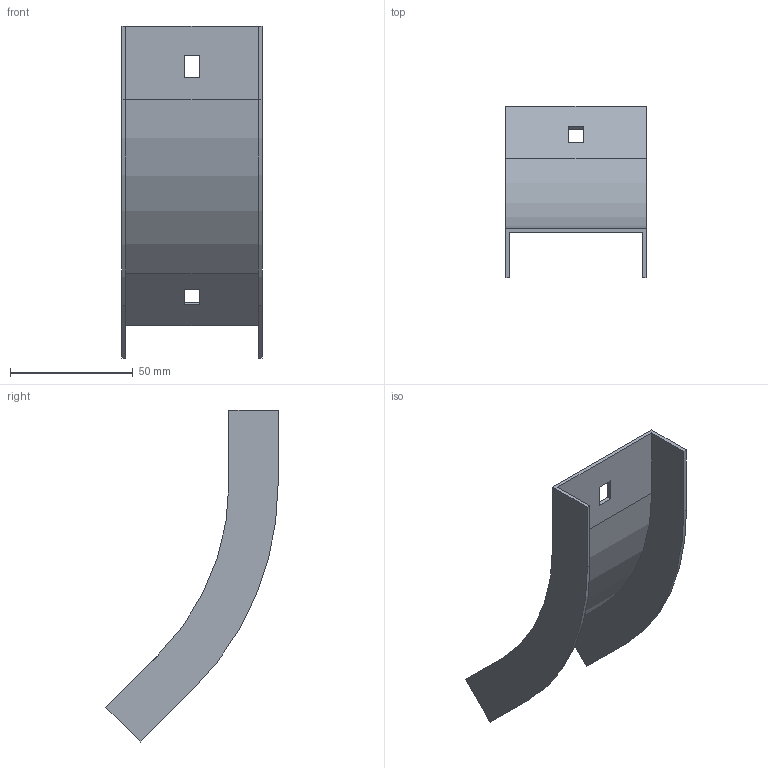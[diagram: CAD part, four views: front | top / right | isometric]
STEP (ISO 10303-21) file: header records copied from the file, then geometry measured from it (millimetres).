
FILE_DESCRIPTION (( 'STEP AP214' ), '1' );
FILE_NAME ('31G1P050.step', '2025-02-21T12:47:20', ( '' ), ( '' ), 'SwSTEP 2.0', 'SolidWorks 2023', '' );
FILE_SCHEMA (( 'AUTOMOTIVE_DESIGN' ));
Length unit declared in the file: millimetre
Products named in the file (1): 31G1P050
Bounding box: 57 x 70.06 x 135.01 mm (x, y, z)
Volume: 19711.5 mm3; surface area: 27114.4 mm2
Topology: 1 solids, 1 shells, 26 faces, 72 edges, 48 vertices
Faces by surface type: plane 22, cylinder 4
Entity records: 855 total; most frequent: CARTESIAN_POINT 147, ORIENTED_EDGE 144, DIRECTION 134, EDGE_CURVE 72, VECTOR 64, LINE 64, VERTEX_POINT 48, AXIS2_PLACEMENT_3D 35
